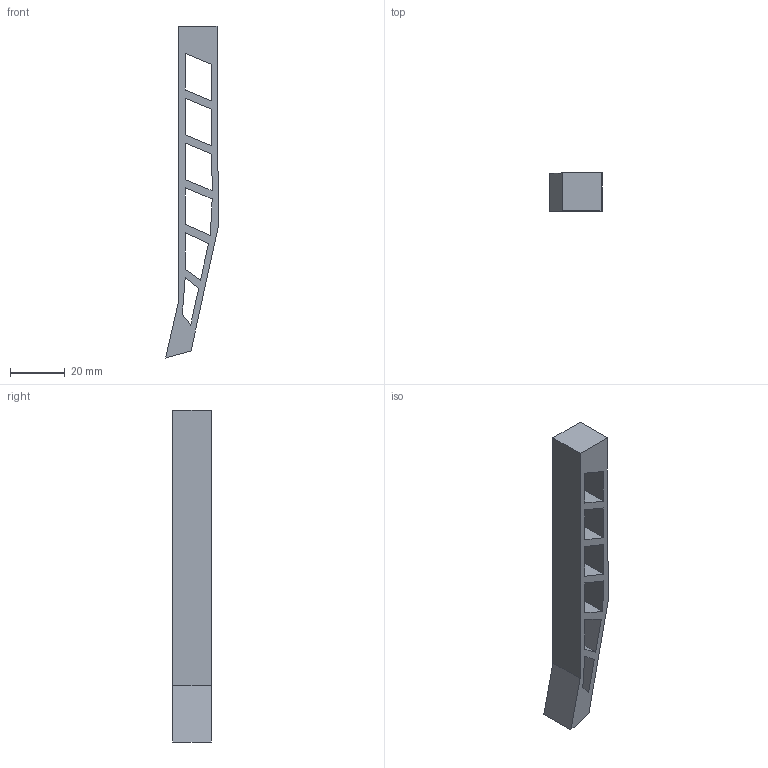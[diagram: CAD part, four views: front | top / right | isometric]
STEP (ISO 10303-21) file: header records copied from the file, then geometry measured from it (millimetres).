
FILE_DESCRIPTION(('Open CASCADE Model'),'2;1');
FILE_NAME('Open CASCADE Shape Model','2026-10-15T18:27:22',('Author'),( 'Open CASCADE'),'Open CASCADE STEP processor 7.9','Open CASCADE 7.9' ,'Unknown');
FILE_SCHEMA(('AUTOMOTIVE_DESIGN { 1 0 10303 214 1 1 1 1 }'));
Length unit declared in the file: millimetre
Products named in the file (1): Open CASCADE STEP translator 7.9 28
Bounding box: 19.23 x 14 x 121 mm (x, y, z)
Volume: 11849.2 mm3; surface area: 9200.8 mm2
Topology: 1 solids, 1 shells, 32 faces, 90 edges, 60 vertices
Faces by surface type: plane 32
Entity records: 2122 total; most frequent: CARTESIAN_POINT 459, DIRECTION 240, ORIENTED_EDGE 180, PCURVE 180, DEFINITIONAL_REPRESENTATION 180, LINE 174, VECTOR 174, B_SPLINE_CURVE_WITH_KNOTS 96
